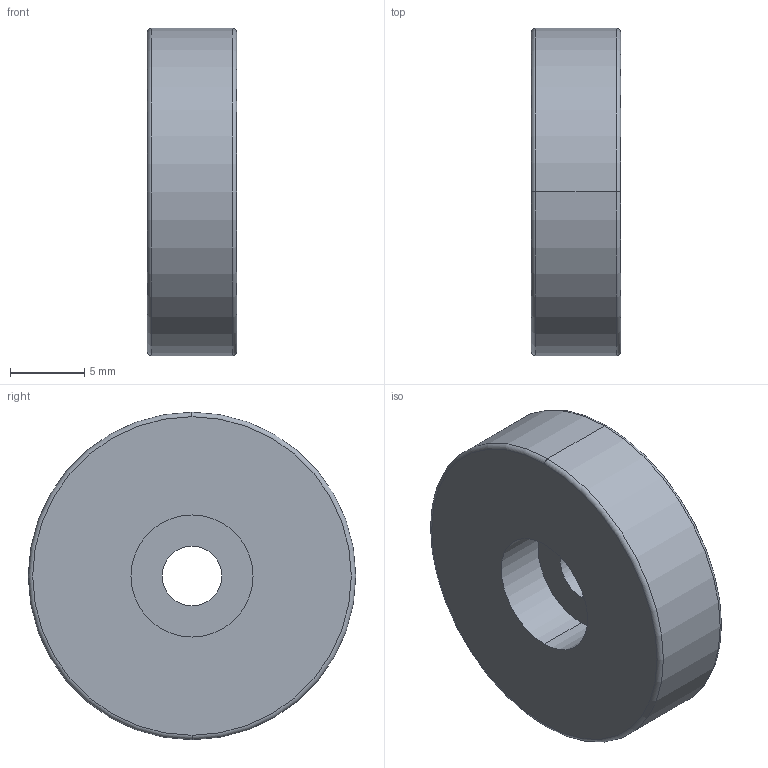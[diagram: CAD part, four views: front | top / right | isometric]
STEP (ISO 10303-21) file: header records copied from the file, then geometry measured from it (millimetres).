
FILE_DESCRIPTION (( 'STEP AP214' ), '1' );
FILE_NAME ('51.4-ND-22-SW.step', '2020-11-27T13:43:31', ( '' ), ( '' ), 'SwSTEP 2.0', 'SolidWorks 2019', '' );
FILE_SCHEMA (( 'AUTOMOTIVE_DESIGN' ));
Length unit declared in the file: millimetre
Products named in the file (1): 51.4-ND-22-SW
Bounding box: 6 x 22 x 22 mm (x, y, z)
Volume: 2024.2 mm3; surface area: 1266.1 mm2
Topology: 1 solids, 1 shells, 16 faces, 32 edges, 20 vertices
Faces by surface type: cylinder 8, torus 4, plane 4
Entity records: 510 total; most frequent: DIRECTION 90, CARTESIAN_POINT 69, ORIENTED_EDGE 64, AXIS2_PLACEMENT_3D 41, EDGE_CURVE 32, CIRCLE 24, EDGE_LOOP 20, VERTEX_POINT 20
